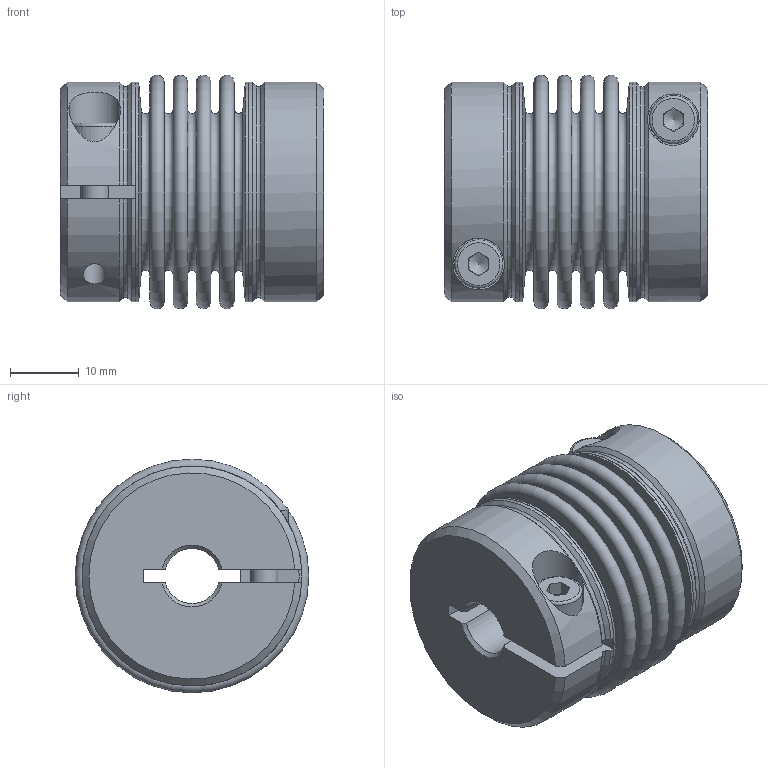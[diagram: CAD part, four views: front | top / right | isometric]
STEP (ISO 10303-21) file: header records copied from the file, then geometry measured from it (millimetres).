
FILE_DESCRIPTION( ( 'Unknown' ), '1' );
FILE_NAME( 'F:/JAKOB-STEP+IGES-Dateien/STEP-Dateien/KG-VA/KG-VA 8 - 4W.stp', 'Unknown', ( 'Unknown' ), ( 'Unknown' ), 'PSStep 10.1', 'Unknown', ' ' );
FILE_SCHEMA( ( 'AUTOMOTIVE_DESIGN { 1 0 10303 214 1 1 1 1 }' ) );
Length unit declared in the file: millimetre
Products named in the file (3): 20716961
Bounding box: 38.32 x 34 x 34 mm (x, y, z)
Volume: 17592.1 mm3; surface area: 18068.8 mm2
Topology: 3 solids, 3 shells, 128 faces, 287 edges, 187 vertices
Faces by surface type: plane 64, cylinder 22, torus 22, cone 20
Full cylindrical faces by diameter (mm): 3.3 x2, 4 x2, 4.3 x2, 7 x2, 7.5 x2, 31.2 x2, 32 x2
Entity records: 4594 total; most frequent: CARTESIAN_POINT 803, DIRECTION 610, ORIENTED_EDGE 464, AXIS2_PLACEMENT_3D 257, EDGE_CURVE 232, EDGE_LOOP 196, VERTEX_POINT 174, FACE_OUTER_BOUND 162
